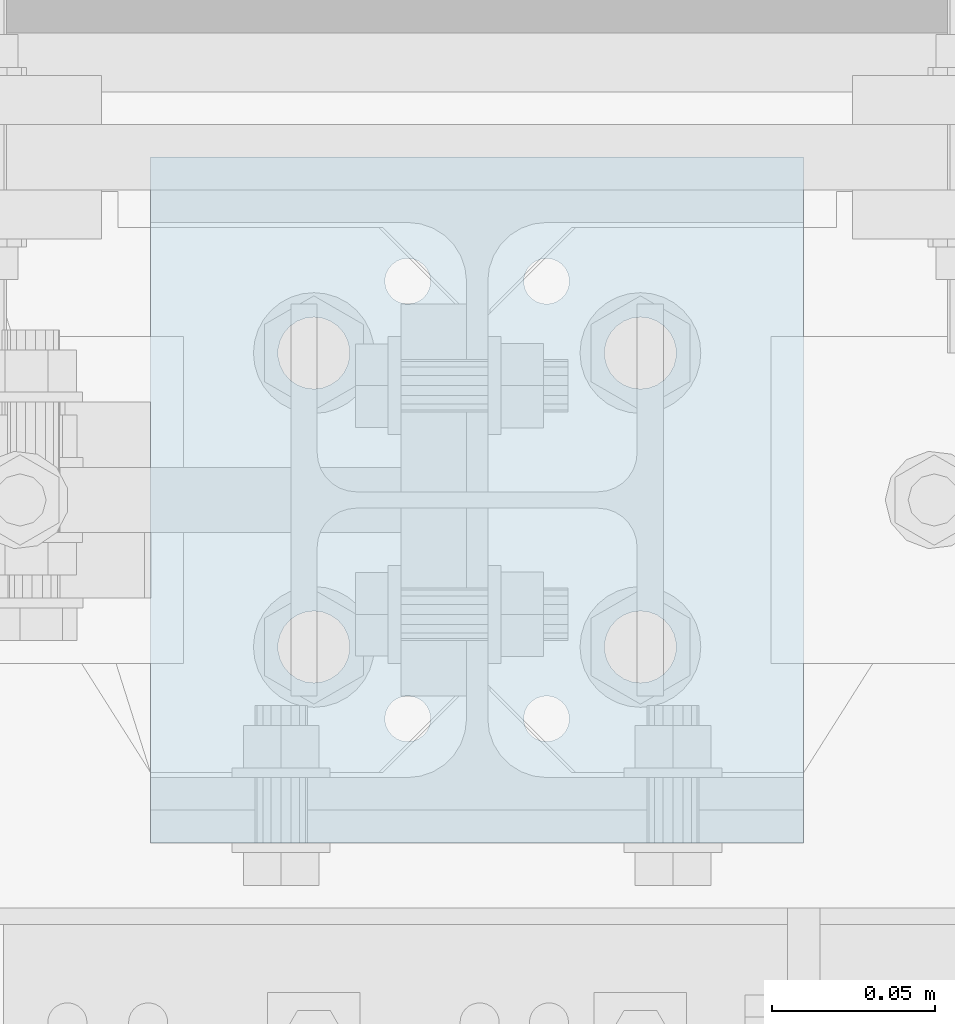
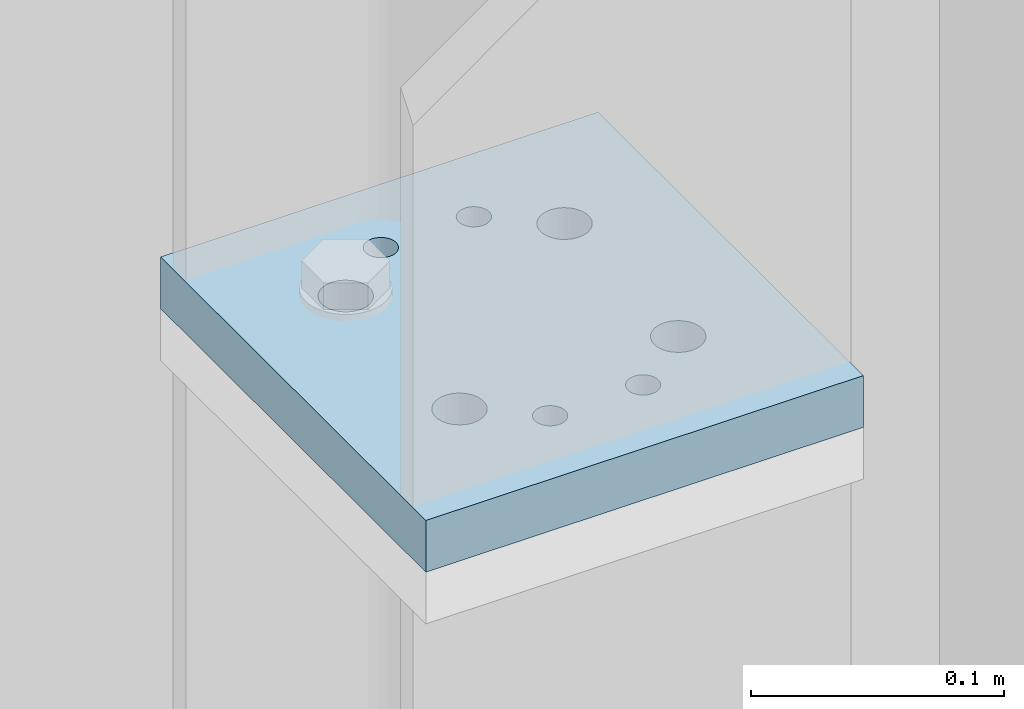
# One storey, part 216 of 825: 1 plate, 8 openings.
"""IFC2X3 building model written with IfcOpenShell, lengths in millimetres."""

from ifc_helpers import new_model, entity, si_unit, converted_unit, frame, frame_2d, origin, origin_with_axes, origin_2d_with_axis, place, context, project, spatial, polyline, circle, outline, extrude, material, layer, layer_set, element, save


model = new_model("IFC2X3")

# Units and contexts
model_context = context("Model", 3, precision=1e-09, world=origin_with_axes())
ifc_project = project(units=[si_unit("LENGTHUNIT", "METRE", prefix="MILLI"), si_unit("AREAUNIT", "SQUARE_METRE"), si_unit("VOLUMEUNIT", "CUBIC_METRE"), converted_unit("PLANEANGLEUNIT", "DEGREE", entity("IfcPlaneAngleMeasure", 0.01745329), si_unit("PLANEANGLEUNIT", "RADIAN"), dimensions=[0, 0, 0, 0, 0, 0, 0])], contexts=[model_context])

# Site, building, storey
site_placement = place(None, origin_with_axes())
site = spatial("IfcSite", under=ifc_project, at=site_placement, Name="Cnopf'sche Kinderklinik", CompositionType="ELEMENT")
building_placement = place(site_placement, origin_with_axes())
building = spatial("IfcBuilding", under=site, at=building_placement, Name="Struktur 1", CompositionType="ELEMENT")
storey_placement = place(building_placement, origin_with_axes())
storey = spatial("IfcBuildingStorey", under=building, at=storey_placement, Name="Default Storey", CompositionType="ELEMENT", Elevation=0.0)

# Plate, openings
ifc_material = material(Name="S235JR")
ifc_layer = layer(ifc_material, 25.0)
ifc_layer_set = layer_set([ifc_layer], Name="S235JR")
plate_placement = place(None, frame((8866.713402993, 7516.736971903, 7675.0), z_axis=(0.0, 0.0, -1.0), x_axis=(0.0, -1.0, 0.0)))
plate = element("IfcPlate", 1, at=plate_placement, inside=storey, material=ifc_layer_set, Name="Endplate#2", ObjectType="Endplate#2", context=model_context, shape_type="SweptSolid", body=[
    extrude(outline(polyline([(-105.0, -100.0), (105.0, -100.0), (105.0, 100.0), (-105.0, 100.0), (-105.0, -100.0)])), origin_with_axes(), (0.0, 0.0, 1.0), 25.0),
])
opening_1_placement = place(plate_placement, frame((67.0, 21.25, 25.5), z_axis=(0.0, 0.0, -1.0), x_axis=(-1.0, 0.0, 0.0)))
element("IfcOpeningElement", 2, at=opening_1_placement, cuts=plate, ObjectType="Opening", context=model_context, shape_type="SweptSolid", body=[
    extrude(circle(Radius=7.001, at=origin_2d_with_axis()), origin(), (0.0, 0.0, 1.0), 26.0),
])
opening_2_placement = place(plate_placement, frame((-67.0, 21.25, 25.5), z_axis=(0.0, 0.0, -1.0), x_axis=(-1.0, 0.0, 0.0)))
element("IfcOpeningElement", 3, at=opening_2_placement, cuts=plate, ObjectType="Opening", context=model_context, shape_type="SweptSolid", body=[
    extrude(circle(Radius=7.001, at=origin_2d_with_axis()), origin(), (0.0, 0.0, 1.0), 26.0),
])
opening_3_placement = place(plate_placement, frame((-67.0, -21.25, 25.5), z_axis=(0.0, 0.0, -1.0), x_axis=(-1.0, 0.0, 0.0)))
element("IfcOpeningElement", 4, at=opening_3_placement, cuts=plate, ObjectType="Opening", context=model_context, shape_type="SweptSolid", body=[
    extrude(circle(Radius=7.001, at=origin_2d_with_axis()), origin(), (0.0, 0.0, 1.0), 26.0),
])
opening_4_placement = place(plate_placement, frame((67.0, -21.25, 25.5), z_axis=(0.0, 0.0, -1.0), x_axis=(-1.0, 0.0, 0.0)))
element("IfcOpeningElement", 5, at=opening_4_placement, cuts=plate, ObjectType="Opening", context=model_context, shape_type="SweptSolid", body=[
    extrude(circle(Radius=7.001, at=origin_2d_with_axis()), origin(), (0.0, 0.0, 1.0), 26.0),
])
opening_5_placement = place(plate_placement, frame((45.0, -38.999, 25.5), z_axis=(0.0, 0.0, 1.0), x_axis=(1.0, 0.0, 0.0)))
element("IfcOpeningElement", 6, at=opening_5_placement, cuts=plate, ObjectType="Opening", context=model_context, shape_type="SweptSolid", body=[
    extrude(circle(Radius=11.001, at=frame_2d((0.0, -11.001), x_axis=(1.0, 0.0))), origin(), (0.0, 0.0, -1.0), 26.0),
])
opening_6_placement = place(plate_placement, frame((-45.0, -38.999, 25.5), z_axis=(0.0, 0.0, 1.0), x_axis=(1.0, 0.0, 0.0)))
element("IfcOpeningElement", 7, at=opening_6_placement, cuts=plate, ObjectType="Opening", context=model_context, shape_type="SweptSolid", body=[
    extrude(circle(Radius=11.001, at=frame_2d((0.0, -11.001), x_axis=(1.0, 0.0))), origin(), (0.0, 0.0, -1.0), 26.0),
])
opening_7_placement = place(plate_placement, frame((45.0, 61.001, 25.5), z_axis=(0.0, 0.0, 1.0), x_axis=(1.0, 0.0, 0.0)))
element("IfcOpeningElement", 8, at=opening_7_placement, cuts=plate, ObjectType="Opening", context=model_context, shape_type="SweptSolid", body=[
    extrude(circle(Radius=11.001, at=frame_2d((0.0, -11.001), x_axis=(1.0, 0.0))), origin(), (0.0, 0.0, -1.0), 26.0),
])
opening_8_placement = place(plate_placement, frame((-45.0, 61.001, 25.5), z_axis=(0.0, 0.0, 1.0), x_axis=(1.0, 0.0, 0.0)))
element("IfcOpeningElement", 9, at=opening_8_placement, cuts=plate, ObjectType="Opening", context=model_context, shape_type="SweptSolid", body=[
    extrude(circle(Radius=11.001, at=frame_2d((0.0, -11.001), x_axis=(1.0, 0.0))), origin(), (0.0, 0.0, -1.0), 26.0),
])

save(model, "model.ifc")
